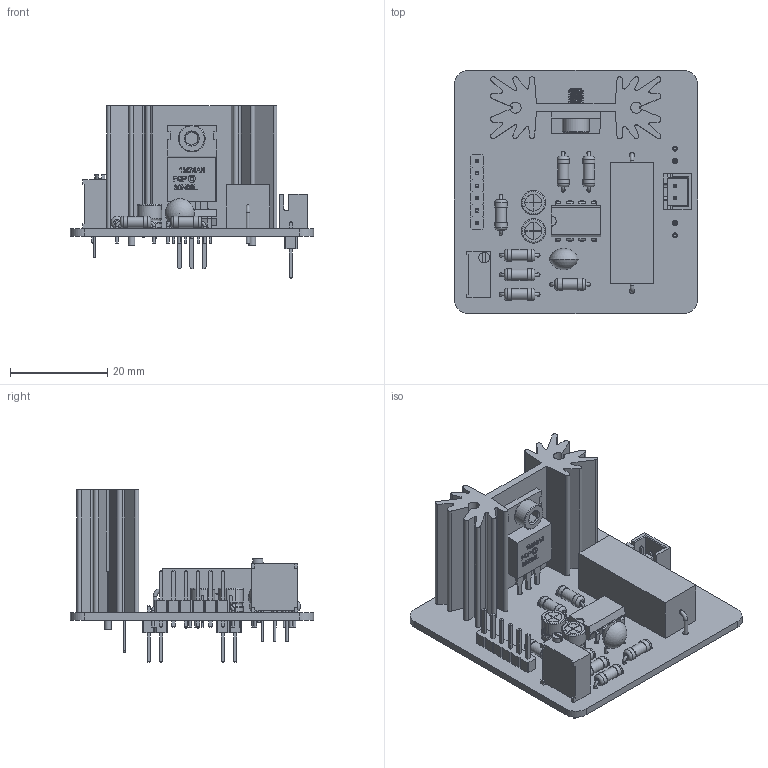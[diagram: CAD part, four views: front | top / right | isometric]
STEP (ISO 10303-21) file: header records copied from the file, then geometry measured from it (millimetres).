
FILE_DESCRIPTION(('KiCad electronic assembly'),'2;1');
FILE_NAME('Intermediate_Laser_Driver.step','2026-10-09T21:25:11',( 'Pcbnew'),('Kicad'),'Open CASCADE STEP processor 7.9', 'KiCad to STEP converter','Unknown');
FILE_SCHEMA(('AUTOMOTIVE_DESIGN { 1 0 10303 214 1 1 1 1 }'));
Length unit declared in the file: millimetre
Products named in the file (18): Intermediate_Laser_Driver 1; C_Disc_D6.0mm_W4.4mm_P5.00mm; R_Axial_DIN0207_L6.3mm_D2.5mm_P7.62mm_Horizontal; Mosfet_with_heatsink; CUI_DEVICES_HSE-B20254-035H-01 v1; FQP30N06L MOSFET With Leads v1; FQP30N06L MOSFET With Leads; 91290A111_Alloy Steel Socket Head Screw; Potentiometer_Bourns_3296W_Vertical; JST_XH_B2B-XH-A_1x02_P2.50mm_Vertical; R_Axial_Power_L25.0mm_W9.0mm_P27.94mm; LT1215CN8_PBF; LT1021DIN8-5#PBF_LT1021DIN8-5#PBF; PinHeader_1x06_P2.54mm_Vertical; CP_Radial_D5.0mm_P2.50mm; R_Axial_DIN0516_L15.5mm_D5.0mm_P20.32mm_Horizontal; PinHeader_1x02_P2.54mm_Vertical; Intermediate_Laser_Driver_PCB
Assembly tree (25 placements, depth 4):
  Intermediate_Laser_Driver 1
    C_Disc_D6.0mm_W4.4mm_P5.00mm
    R_Axial_DIN0207_L6.3mm_D2.5mm_P7.62mm_Horizontal  x7
    Mosfet_with_heatsink
      CUI_DEVICES_HSE-B20254-035H-01 v1
      FQP30N06L MOSFET With Leads v1
        FQP30N06L MOSFET With Leads
      91290A111_Alloy Steel Socket Head Screw
    Potentiometer_Bourns_3296W_Vertical
    JST_XH_B2B-XH-A_1x02_P2.50mm_Vertical
    R_Axial_Power_L25.0mm_W9.0mm_P27.94mm
    LT1215CN8_PBF
      LT1021DIN8-5#PBF_LT1021DIN8-5#PBF
    PinHeader_1x06_P2.54mm_Vertical
    CP_Radial_D5.0mm_P2.50mm  x2
    R_Axial_DIN0516_L15.5mm_D5.0mm_P20.32mm_Horizontal
    PinHeader_1x02_P2.54mm_Vertical  x2
    Intermediate_Laser_Driver_PCB
Bounding box: 50 x 50 x 35.4 mm (x, y, z)
Volume: 12589 mm3; surface area: 15031.5 mm2
Topology: 30 solids, 32 shells, 1320 faces, 3313 edges, 2153 vertices
Faces by surface type: plane 848, cylinder 219, bspline 194, torus 39, revolution 12, cone 6, sphere 2
Full cylindrical faces by diameter (mm): 0.5 x6, 0.51 x3, 0.6 x14, 0.8 x31, 0.889 x8, 1 x12, 1.1 x3, 1.2 x3, 1.4 x2, 1.5 x1, 1.7 x2, 2.19 x1, 2.25 x7, 2.35 x11, 2.5 x14, 3 x10, 3.5 x1, 3.6 x1, 4.5 x1, 5 x2, 5.5 x1
Entity records: 43181 total; most frequent: CARTESIAN_POINT 12365, ORIENTED_EDGE 5870, DIRECTION 4775, EDGE_CURVE 2935, LINE 2120, VECTOR 2120, VERTEX_POINT 1920, AXIS2_PLACEMENT_3D 1324
